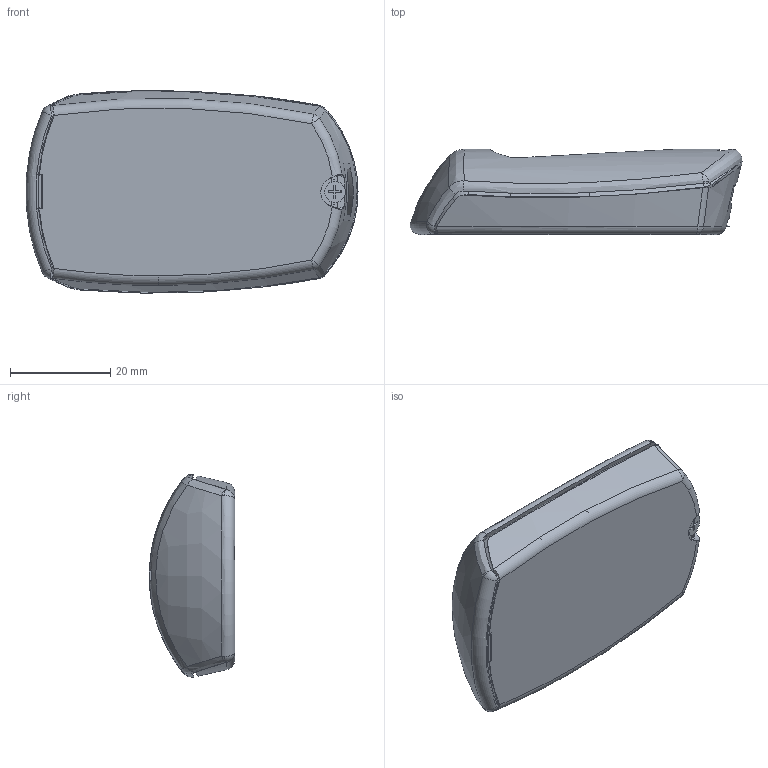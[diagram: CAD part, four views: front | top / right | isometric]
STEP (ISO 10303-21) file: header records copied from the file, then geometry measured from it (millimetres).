
FILE_DESCRIPTION (( 'STEP AP214' ), '1' );
FILE_NAME ('Conjunt PP103.STEP', '2018-06-05T09:10:13', ( 'aaa' ), ( '' ), 'SwSTEP 2.0', 'SolidWorks 2013', '' );
FILE_SCHEMA (( 'AUTOMOTIVE_DESIGN' ));
Length unit declared in the file: millimetre
Products named in the file (5): Cargol PP103 2,2x9,5 DIN 7982; Cos PP103_tapa; Junta PP103_tapa; Tapa pp103_tapa; Conjunt PP103
Assembly tree (4 placements, depth 2):
  Conjunt PP103
    Tapa pp103_tapa
    Junta PP103_tapa
    Cos PP103_tapa
    Cargol PP103 2,2x9,5 DIN 7982
Bounding box: 66.14 x 17 x 40.28 mm (x, y, z)
Volume: 12144.4 mm3; surface area: 19066.3 mm2
Topology: 6 solids, 6 shells, 480 faces, 1250 edges, 775 vertices
Faces by surface type: plane 165, bspline 105, cone 88, cylinder 71, torus 31, sphere 20
Entity records: 19917 total; most frequent: CARTESIAN_POINT 9116, ORIENTED_EDGE 2480, DIRECTION 1818, EDGE_CURVE 1240, VERTEX_POINT 775, AXIS2_PLACEMENT_3D 668, EDGE_LOOP 501, LINE 482
